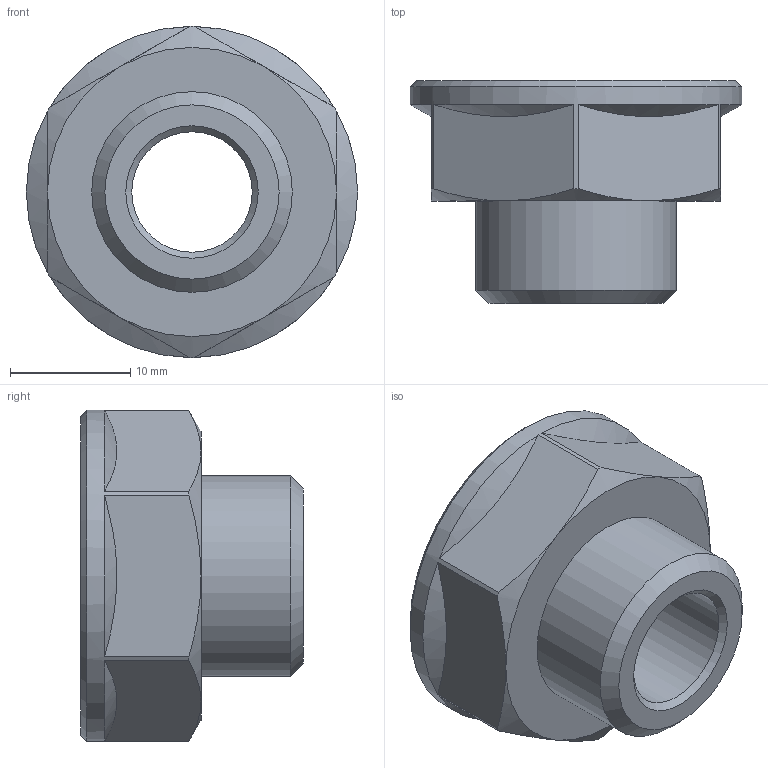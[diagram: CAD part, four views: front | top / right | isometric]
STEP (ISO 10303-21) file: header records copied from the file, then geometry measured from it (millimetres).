
FILE_DESCRIPTION(('STEP AP203'), '1');
FILE_NAME('ﾂﾐ.753138.006 - VTr.592.N.0403 ﾏ褞襄. G1-2xG3-8', '2024-07-08T08:49:22', ('Boss'), (''), 'C3D Converter', 'C3D Toolkit', '');
FILE_SCHEMA(('CONFIG_CONTROL_DESIGN'));
Length unit declared in the file: millimetre
Products named in the file (1): ВР.753138.006
Bounding box: 27.5 x 18.5 x 27.5 mm (x, y, z)
Volume: 3844.2 mm3; surface area: 2938.9 mm2
Topology: 1 solids, 1 shells, 31 faces, 70 edges, 43 vertices
Faces by surface type: cone 16, plane 10, cylinder 4, torus 1
Full cylindrical faces by diameter (mm): 10 x1, 16.662 x1, 18.632 x1, 27.5 x1
Entity records: 1319 total; most frequent: CARTESIAN_POINT 691, DIRECTION 126, ORIENTED_EDGE 110, AXIS2_PLACEMENT_3D 57, EDGE_CURVE 55, EDGE_LOOP 41, VERTEX_POINT 40, ADVANCED_FACE 28
